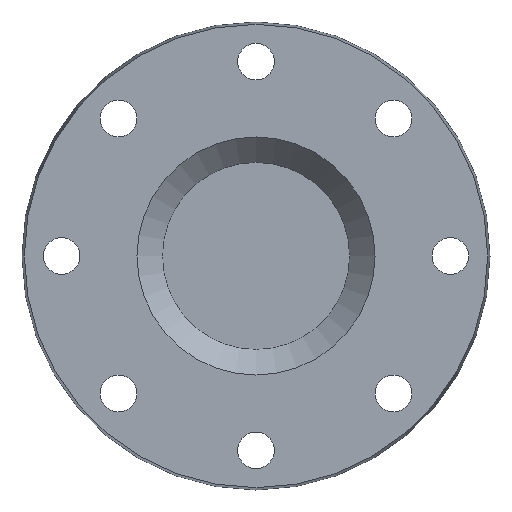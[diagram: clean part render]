
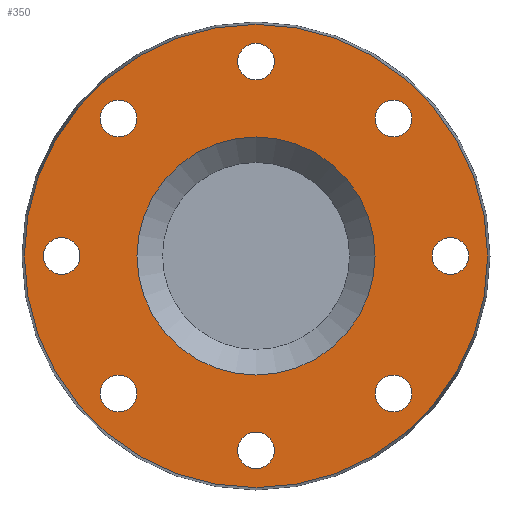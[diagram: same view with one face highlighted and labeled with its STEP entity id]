
A CAD part, left-side view. The second image highlights one B-rep face of the part: STEP entity #350.
In plain terms, the highlighted planar face has unit normal (-1, 0, 0).
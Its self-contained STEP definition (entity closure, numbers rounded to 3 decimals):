
#24=PLANE('',#407);
#55=FACE_BOUND('',#142,.T.);
#56=FACE_BOUND('',#143,.T.);
#57=FACE_BOUND('',#144,.T.);
#58=FACE_BOUND('',#145,.T.);
#59=FACE_BOUND('',#146,.T.);
#60=FACE_BOUND('',#147,.T.);
#61=FACE_BOUND('',#148,.T.);
#62=FACE_BOUND('',#149,.T.);
#63=FACE_BOUND('',#150,.T.);
#87=FACE_OUTER_BOUND('',#141,.T.);
#141=EDGE_LOOP('',(#301));
#142=EDGE_LOOP('',(#302));
#143=EDGE_LOOP('',(#303));
#144=EDGE_LOOP('',(#304));
#145=EDGE_LOOP('',(#305));
#146=EDGE_LOOP('',(#306));
#147=EDGE_LOOP('',(#307));
#148=EDGE_LOOP('',(#308));
#149=EDGE_LOOP('',(#309));
#150=EDGE_LOOP('',(#310));
#175=CIRCLE('',#389,9.);
#176=CIRCLE('',#391,9.);
#177=CIRCLE('',#393,9.);
#178=CIRCLE('',#395,9.);
#179=CIRCLE('',#397,9.);
#180=CIRCLE('',#399,9.);
#181=CIRCLE('',#401,9.);
#182=CIRCLE('',#403,9.);
#183=CIRCLE('',#406,113.85);
#184=CIRCLE('',#408,58.5);
#207=VERTEX_POINT('',#584);
#208=VERTEX_POINT('',#587);
#209=VERTEX_POINT('',#590);
#210=VERTEX_POINT('',#593);
#211=VERTEX_POINT('',#596);
#212=VERTEX_POINT('',#599);
#213=VERTEX_POINT('',#602);
#214=VERTEX_POINT('',#605);
#215=VERTEX_POINT('',#609);
#216=VERTEX_POINT('',#612);
#239=EDGE_CURVE('',#207,#207,#175,.T.);
#240=EDGE_CURVE('',#208,#208,#176,.T.);
#241=EDGE_CURVE('',#209,#209,#177,.T.);
#242=EDGE_CURVE('',#210,#210,#178,.T.);
#243=EDGE_CURVE('',#211,#211,#179,.T.);
#244=EDGE_CURVE('',#212,#212,#180,.T.);
#245=EDGE_CURVE('',#213,#213,#181,.T.);
#246=EDGE_CURVE('',#214,#214,#182,.T.);
#247=EDGE_CURVE('',#215,#215,#183,.T.);
#248=EDGE_CURVE('',#216,#216,#184,.T.);
#301=ORIENTED_EDGE('',*,*,#247,.T.);
#302=ORIENTED_EDGE('',*,*,#239,.T.);
#303=ORIENTED_EDGE('',*,*,#240,.T.);
#304=ORIENTED_EDGE('',*,*,#241,.T.);
#305=ORIENTED_EDGE('',*,*,#242,.T.);
#306=ORIENTED_EDGE('',*,*,#243,.T.);
#307=ORIENTED_EDGE('',*,*,#244,.T.);
#308=ORIENTED_EDGE('',*,*,#245,.T.);
#309=ORIENTED_EDGE('',*,*,#246,.T.);
#310=ORIENTED_EDGE('',*,*,#248,.F.);
#350=ADVANCED_FACE('',(#87,#55,#56,#57,#58,#59,#60,#61,#62,#63),#24,.T.);
#389=AXIS2_PLACEMENT_3D('',#585,#482,#483);
#391=AXIS2_PLACEMENT_3D('',#588,#486,#487);
#393=AXIS2_PLACEMENT_3D('',#591,#490,#491);
#395=AXIS2_PLACEMENT_3D('',#594,#494,#495);
#397=AXIS2_PLACEMENT_3D('',#597,#498,#499);
#399=AXIS2_PLACEMENT_3D('',#600,#502,#503);
#401=AXIS2_PLACEMENT_3D('',#603,#506,#507);
#403=AXIS2_PLACEMENT_3D('',#606,#510,#511);
#406=AXIS2_PLACEMENT_3D('',#610,#516,#517);
#407=AXIS2_PLACEMENT_3D('',#611,#518,#519);
#408=AXIS2_PLACEMENT_3D('',#613,#520,#521);
#482=DIRECTION('center_axis',(1.,0.,0.));
#483=DIRECTION('ref_axis',(0.,-0.707,0.707));
#486=DIRECTION('center_axis',(1.,0.,0.));
#487=DIRECTION('ref_axis',(0.,-1.,0.));
#490=DIRECTION('center_axis',(1.,0.,0.));
#491=DIRECTION('ref_axis',(0.,-0.707,-0.707));
#494=DIRECTION('center_axis',(1.,0.,0.));
#495=DIRECTION('ref_axis',(0.,0.,-1.));
#498=DIRECTION('center_axis',(1.,0.,0.));
#499=DIRECTION('ref_axis',(0.,0.707,-0.707));
#502=DIRECTION('center_axis',(1.,0.,0.));
#503=DIRECTION('ref_axis',(0.,1.,0.));
#506=DIRECTION('center_axis',(1.,0.,0.));
#507=DIRECTION('ref_axis',(0.,0.707,0.707));
#510=DIRECTION('center_axis',(1.,0.,0.));
#511=DIRECTION('ref_axis',(0.,0.,1.));
#516=DIRECTION('center_axis',(-1.,0.,0.));
#517=DIRECTION('ref_axis',(0.,0.,1.));
#518=DIRECTION('center_axis',(-1.,0.,0.));
#519=DIRECTION('ref_axis',(0.,0.,1.));
#520=DIRECTION('center_axis',(-1.,0.,0.));
#521=DIRECTION('ref_axis',(0.,0.,1.));
#584=CARTESIAN_POINT('',(-12.5,73.893,61.165));
#585=CARTESIAN_POINT('Origin',(-12.5,67.529,67.529));
#587=CARTESIAN_POINT('',(-12.5,9.,95.5));
#588=CARTESIAN_POINT('Origin',(-12.5,0.,95.5));
#590=CARTESIAN_POINT('',(-12.5,-61.165,73.893));
#591=CARTESIAN_POINT('Origin',(-12.5,-67.529,67.529));
#593=CARTESIAN_POINT('',(-12.5,-95.5,9.));
#594=CARTESIAN_POINT('Origin',(-12.5,-95.5,0.));
#596=CARTESIAN_POINT('',(-12.5,-73.893,-61.165));
#597=CARTESIAN_POINT('Origin',(-12.5,-67.529,-67.529));
#599=CARTESIAN_POINT('',(-12.5,-9.,-95.5));
#600=CARTESIAN_POINT('Origin',(-12.5,0.,-95.5));
#602=CARTESIAN_POINT('',(-12.5,61.165,-73.893));
#603=CARTESIAN_POINT('Origin',(-12.5,67.529,-67.529));
#605=CARTESIAN_POINT('',(-12.5,95.5,-9.));
#606=CARTESIAN_POINT('Origin',(-12.5,95.5,0.));
#609=CARTESIAN_POINT('',(-12.5,-113.85,0.));
#610=CARTESIAN_POINT('Origin',(-12.5,0.,0.));
#611=CARTESIAN_POINT('Origin',(-12.5,-58.5,0.));
#612=CARTESIAN_POINT('',(-12.5,-58.5,0.));
#613=CARTESIAN_POINT('Origin',(-12.5,0.,0.));
